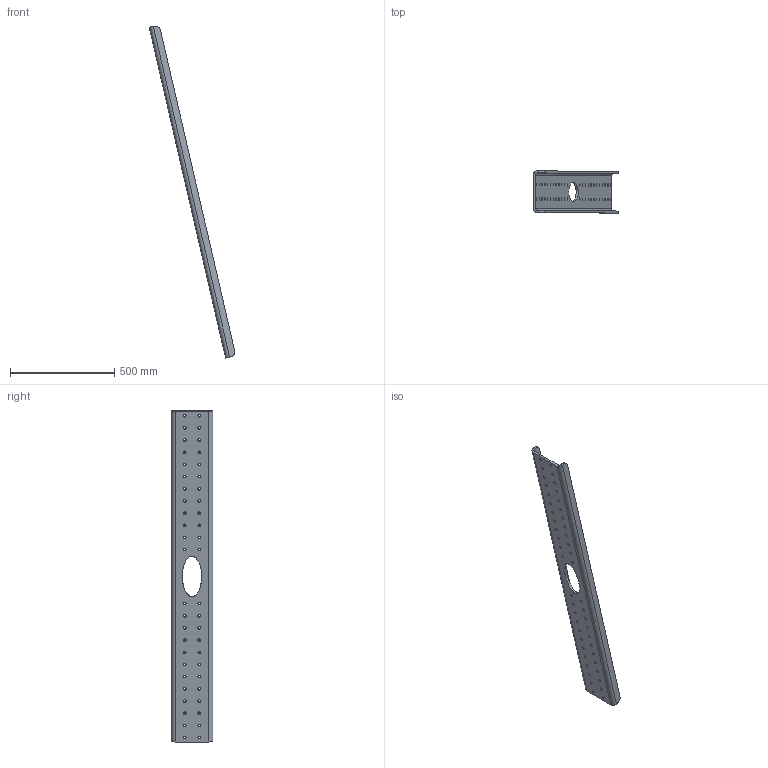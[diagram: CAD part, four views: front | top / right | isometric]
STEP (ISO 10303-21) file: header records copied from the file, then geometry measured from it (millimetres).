
FILE_DESCRIPTION(('FreeCAD Model'),'2;1');
FILE_NAME( 'C:/Users/Sergio Pluchinsky/Downloads/04.10.0003_Achsplatte.step', '2017-11-27T19:19:16',('Author'),(''), 'Open CASCADE STEP processor 7.1','FreeCAD','Unknown');
FILE_SCHEMA(('AUTOMOTIVE_DESIGN { 1 0 10303 214 1 1 1 1 }'));
Length unit declared in the file: millimetre
Products named in the file (1): 04.10.0003_Achsplatte
Bounding box: 410.37 x 200 x 1594.45 mm (x, y, z)
Volume: 4137388 mm3; surface area: 889364.1 mm2
Topology: 1 solids, 1 shells, 67 faces, 195 edges, 130 vertices
Faces by surface type: cylinder 56, plane 10, extrusion 1
Full cylindrical faces by diameter (mm): 13 x48
Entity records: 5013 total; most frequent: CARTESIAN_POINT 880, DIRECTION 779, ORIENTED_EDGE 390, PCURVE 390, DEFINITIONAL_REPRESENTATION 390, VECTOR 309, LINE 308, CIRCLE 216
